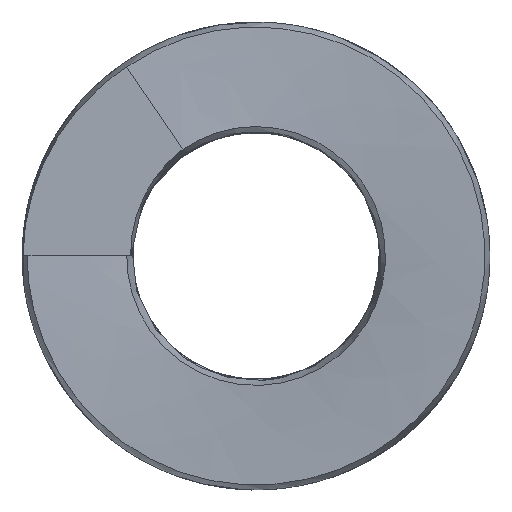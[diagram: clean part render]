
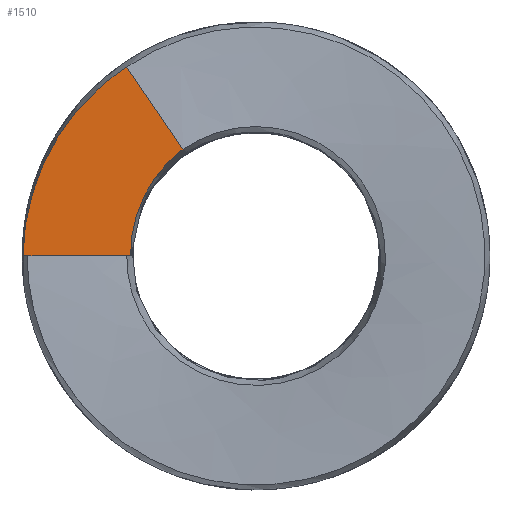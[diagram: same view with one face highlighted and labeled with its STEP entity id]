
A CAD part, left-side view. The second image highlights one B-rep face of the part: STEP entity #1510.
In plain terms, the highlighted planar face has unit normal (-1, 0, 0).
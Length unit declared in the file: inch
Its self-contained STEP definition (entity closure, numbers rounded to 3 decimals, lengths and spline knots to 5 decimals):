
#28 = CARTESIAN_POINT ( 'NONE',  ( 0., 0.8564, 0.4946 ) ) ;
#37 = CARTESIAN_POINT ( 'NONE',  ( 0., 0.42127, 0.34925 ) ) ;
#38 = AXIS2_PLACEMENT_3D ( 'NONE', #790, #758, #1250 ) ;
#127 = EDGE_CURVE ( 'NONE', #839, #2918, #2273, .T. ) ;
#166 = CARTESIAN_POINT ( 'NONE',  ( 0., 0.55195, 0.80756 ) ) ;
#237 = CARTESIAN_POINT ( 'NONE',  ( 0., 0.68113, 0.71282 ) ) ;
#496 = EDGE_CURVE ( 'NONE', #2918, #1072, #2523, .T. ) ;
#526 = CARTESIAN_POINT ( 'NONE',  ( 0., 0.31203, 0.45652 ) ) ;
#529 = CARTESIAN_POINT ( 'NONE',  ( 0., 0.31203, 0.45652 ) ) ;
#555 = CARTESIAN_POINT ( 'NONE',  ( 0., 0.53598, 0. ) ) ;
#566 = CARTESIAN_POINT ( 'NONE',  ( 0., 0.53222, 0.08812 ) ) ;
#652 = EDGE_LOOP ( 'NONE', ( #1481, #2137, #961, #2112 ) ) ;
#674 = CARTESIAN_POINT ( 'NONE',  ( 0., 0.31203, 0.45652 ) ) ;
#711 = B_SPLINE_CURVE_WITH_KNOTS ( 'NONE', 3,
 ( #529, #2074, #784, #37, #3059, #2315, #1810, #2085, #773, #2785, #2551, #566, #2822, #1280 ),
 .UNSPECIFIED., .F., .F.,
 ( 4, 2, 2, 2, 2, 2, 4 ),
 ( 0., 0.00333, 0.005, 0.00666, 0.00833, 0.00999, 0.01332 ),
 .UNSPECIFIED. ) ;
#742 = CARTESIAN_POINT ( 'NONE',  ( 0., 0.61985, 0.7639 ) ) ;
#758 = DIRECTION ( 'NONE',  ( -1., 0., 0. ) ) ;
#773 = CARTESIAN_POINT ( 'NONE',  ( 0., 0.49685, 0.21554 ) ) ;
#774 = CARTESIAN_POINT ( 'NONE',  ( 0., 0.99516, 0.08075 ) ) ;
#784 = CARTESIAN_POINT ( 'NONE',  ( 0., 0.37926, 0.39977 ) ) ;
#785 = CARTESIAN_POINT ( 'NONE',  ( 0., 0.93368, 0.3326 ) ) ;
#790 = CARTESIAN_POINT ( 'NONE',  ( 0., 0., 0. ) ) ;
#839 = VERTEX_POINT ( 'NONE', #2671 ) ;
#843 = LINE ( 'NONE', #1287, #993 ) ;
#961 = ORIENTED_EDGE ( 'NONE', *, *, #1152, .F. ) ;
#990 = CARTESIAN_POINT ( 'NONE',  ( 0., 0.94057, 0.31358 ) ) ;
#993 = VECTOR ( 'NONE', #2021, 39.37008 ) ;
#1015 = CARTESIAN_POINT ( 'NONE',  ( 0., 0.9588, 0.2562 ) ) ;
#1033 = FACE_OUTER_BOUND ( 'NONE', #652, .T. ) ;
#1072 = VERTEX_POINT ( 'NONE', #526 ) ;
#1152 = EDGE_CURVE ( 'NONE', #1798, #839, #843, .T. ) ;
#1176 = CARTESIAN_POINT ( 'NONE',  ( 0., 0.43199, 0.63204 ) ) ;
#1250 = DIRECTION ( 'NONE',  ( 0., -1., 0. ) ) ;
#1280 = CARTESIAN_POINT ( 'NONE',  ( 0., 0.53598, 0. ) ) ;
#1281 = CARTESIAN_POINT ( 'NONE',  ( 0., 0.95312, 0.2754 ) ) ;
#1287 = CARTESIAN_POINT ( 'NONE',  ( 0., 0.766, 0. ) ) ;
#1430 = CARTESIAN_POINT ( 'NONE',  ( 0., 0.55195, 0.80756 ) ) ;
#1481 = ORIENTED_EDGE ( 'NONE', *, *, #496, .F. ) ;
#1490 = CARTESIAN_POINT ( 'NONE',  ( 0., 0.89449, 0.4247 ) ) ;
#1503 = CARTESIAN_POINT ( 'NONE',  ( 0., 0.55195, 0.80756 ) ) ;
#1510 = ADVANCED_FACE ( 'NONE', ( #1033 ), #2044, .T. ) ;
#1774 = CARTESIAN_POINT ( 'NONE',  ( 0., 0.99602, 0. ) ) ;
#1798 = VERTEX_POINT ( 'NONE', #555 ) ;
#1810 = CARTESIAN_POINT ( 'NONE',  ( 0., 0.46914, 0.27506 ) ) ;
#1998 = EDGE_CURVE ( 'NONE', #1072, #1798, #711, .T. ) ;
#2021 = DIRECTION ( 'NONE',  ( 0., 1., 0. ) ) ;
#2044 = PLANE ( 'NONE',  #38 ) ;
#2074 = CARTESIAN_POINT ( 'NONE',  ( 0., 0.34748, 0.42989 ) ) ;
#2085 = CARTESIAN_POINT ( 'NONE',  ( 0., 0.48838, 0.23572 ) ) ;
#2112 = ORIENTED_EDGE ( 'NONE', *, *, #1998, .F. ) ;
#2137 = ORIENTED_EDGE ( 'NONE', *, *, #127, .F. ) ;
#2273 = B_SPLINE_CURVE_WITH_KNOTS ( 'NONE', 3,
 ( #1774, #774, #3003, #1015, #1281, #990, #785, #2542, #1490, #28, #2517, #2800, #2289, #237, #742, #1503 ),
 .UNSPECIFIED., .F., .F.,
 ( 4, 2, 2, 2, 2, 2, 2, 4 ),
 ( 0., 0.00607, 0.00758, 0.0091, 0.01213, 0.01517, 0.0182, 0.02427 ),
 .UNSPECIFIED. ) ;
#2289 = CARTESIAN_POINT ( 'NONE',  ( 0., 0.76295, 0.6249 ) ) ;
#2315 = CARTESIAN_POINT ( 'NONE',  ( 0., 0.45836, 0.29421 ) ) ;
#2517 = CARTESIAN_POINT ( 'NONE',  ( 0., 0.83526, 0.52837 ) ) ;
#2523 = B_SPLINE_CURVE_WITH_KNOTS ( 'NONE', 2,
 ( #1430, #1176, #674 ),
 .UNSPECIFIED., .F., .F.,
 ( 3, 3 ),
 ( 0., 0.0108 ),
 .UNSPECIFIED. ) ;
#2542 = CARTESIAN_POINT ( 'NONE',  ( 0., 0.91144, 0.38857 ) ) ;
#2551 = CARTESIAN_POINT ( 'NONE',  ( 0., 0.51761, 0.15284 ) ) ;
#2671 = CARTESIAN_POINT ( 'NONE',  ( 0., 0.99602, 0. ) ) ;
#2785 = CARTESIAN_POINT ( 'NONE',  ( 0., 0.51145, 0.17416 ) ) ;
#2800 = CARTESIAN_POINT ( 'NONE',  ( 0., 0.78862, 0.59346 ) ) ;
#2822 = CARTESIAN_POINT ( 'NONE',  ( 0., 0.53685, 0.04438 ) ) ;
#2918 = VERTEX_POINT ( 'NONE', #166 ) ;
#3003 = CARTESIAN_POINT ( 'NONE',  ( 0., 0.98418, 0.15967 ) ) ;
#3059 = CARTESIAN_POINT ( 'NONE',  ( 0., 0.43435, 0.33145 ) ) ;
